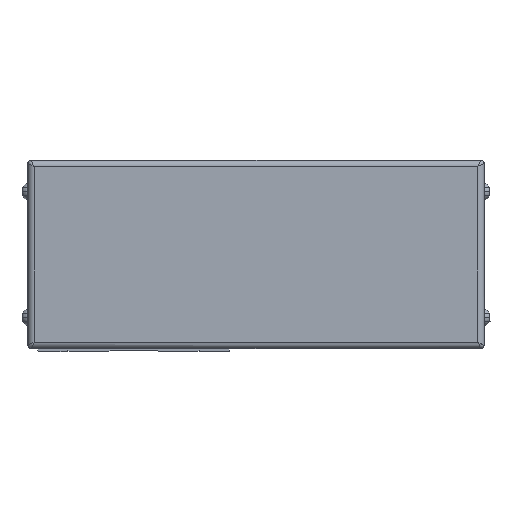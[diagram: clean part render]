
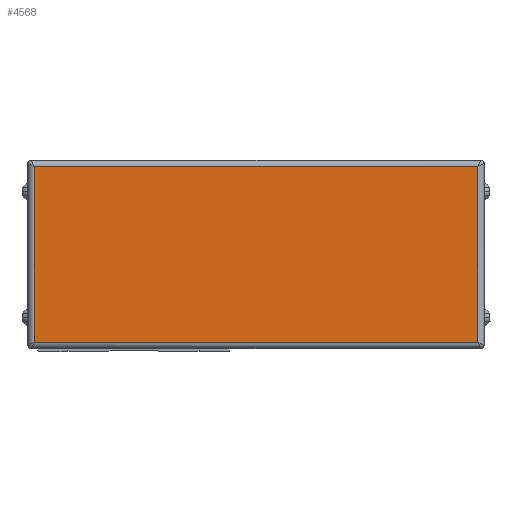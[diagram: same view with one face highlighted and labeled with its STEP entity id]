
A CAD part, left-side view. The second image highlights one B-rep face of the part: STEP entity #4568.
In plain terms, the highlighted planar face has unit normal (-1, 0, 0) as drawn and (0, 0, 1) by its records, which use the part's own axes.
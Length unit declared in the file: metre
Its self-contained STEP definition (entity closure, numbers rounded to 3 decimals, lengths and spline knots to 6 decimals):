
#4568=ADVANCED_FACE('',(#9259),#9260,.T.);
#9259=FACE_OUTER_BOUND('',#17742,.T.);
#9260=PLANE('',#17743);
#17742=EDGE_LOOP('',(#29182,#29183,#29184,#29185));
#17743=AXIS2_PLACEMENT_3D('',#29186,#29187,#29188);
#29182=ORIENTED_EDGE('',*,*,#32148,.F.);
#29183=ORIENTED_EDGE('',*,*,#35437,.F.);
#29184=ORIENTED_EDGE('',*,*,#35239,.F.);
#29185=ORIENTED_EDGE('',*,*,#36070,.F.);
#29186=CARTESIAN_POINT('',(-0.009,-0.053256,0.033889));
#29187=DIRECTION('',(0.0,0.0,1.0));
#29188=DIRECTION('',(1.0,0.0,0.0));
#32148=EDGE_CURVE('',#37498,#37501,#37502,.T.);
#35239=EDGE_CURVE('',#42278,#42281,#42282,.T.);
#35437=EDGE_CURVE('',#42281,#37498,#42535,.T.);
#36070=EDGE_CURVE('',#37501,#42278,#43282,.T.);
#37498=VERTEX_POINT('',#45128);
#37501=VERTEX_POINT('',#45140);
#37502=LINE('',#45141,#45142);
#42278=VERTEX_POINT('',#52383);
#42281=VERTEX_POINT('',#52395);
#42282=LINE('',#52396,#52397);
#42535=LINE('',#52803,#52804);
#43282=LINE('',#54043,#54044);
#45128=CARTESIAN_POINT('',(0.019,0.017444,0.033889));
#45140=CARTESIAN_POINT('',(0.019,-0.123956,0.033889));
#45141=CARTESIAN_POINT('',(0.019,-0.053256,0.033889));
#45142=VECTOR('',#55349,1.0);
#52383=CARTESIAN_POINT('',(-0.037,-0.123956,0.033889));
#52395=CARTESIAN_POINT('',(-0.037,0.017444,0.033889));
#52396=CARTESIAN_POINT('',(-0.037,-0.053256,0.033889));
#52397=VECTOR('',#59087,1.0);
#52803=CARTESIAN_POINT('',(-0.009,0.017444,0.033889));
#52804=VECTOR('',#59301,1.0);
#54043=CARTESIAN_POINT('',(-0.009,-0.123956,0.033889));
#54044=VECTOR('',#59823,1.0);
#55349=DIRECTION('',(0.0,-1.0,0.0));
#59087=DIRECTION('',(0.0,1.0,0.0));
#59301=DIRECTION('',(1.0,0.0,0.0));
#59823=DIRECTION('',(-1.0,0.0,0.0));
